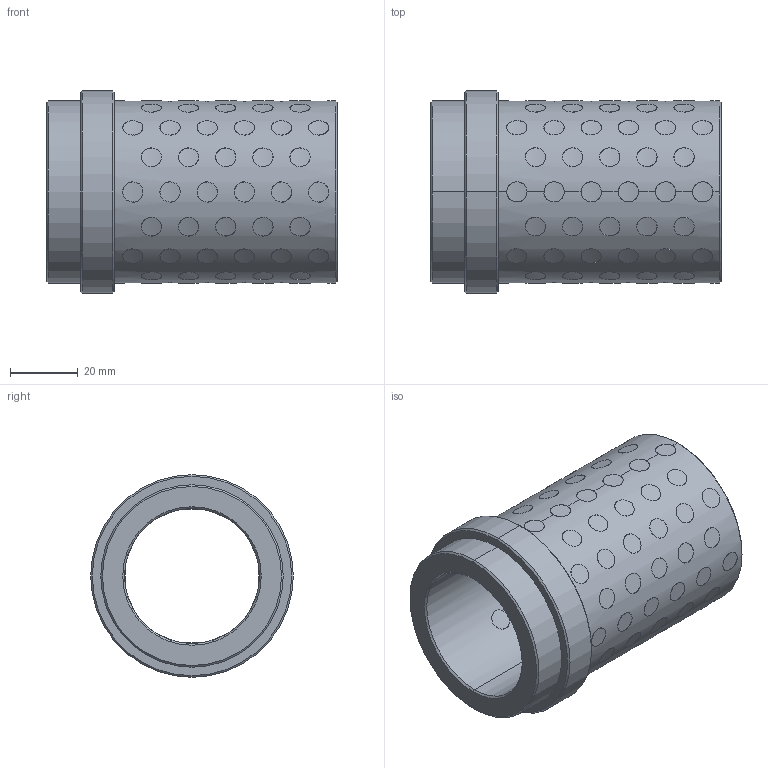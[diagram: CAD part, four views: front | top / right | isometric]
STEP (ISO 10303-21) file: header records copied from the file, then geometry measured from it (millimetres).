
FILE_DESCRIPTION((''),'2;1');
FILE_NAME('G31240076','2017-12-31T',('MANU'),(''),'PRO/ENGINEER BY PARAMETRIC TECHNOLOGY CORPORATION, 2012130','PRO/ENGINEER BY PARAMETRIC TECHNOLOGY CORPORATION, 2012130','');
FILE_SCHEMA(('CONFIG_CONTROL_DESIGN'));
Length unit declared in the file: millimetre
Products named in the file (1): G31240076
Bounding box: 86 x 60 x 60 mm (x, y, z)
Volume: 93849.3 mm3; surface area: 51582.1 mm2
Topology: 89 solids, 89 shells, 552 faces, 1176 edges, 780 vertices
Faces by surface type: cylinder 536, cone 12, plane 4
Entity records: 28104 total; most frequent: CARTESIAN_POINT 17346, ORIENTED_EDGE 2352, DIRECTION 1556, EDGE_CURVE 1176, VERTEX_POINT 780, B_SPLINE_CURVE_WITH_KNOTS 752, EDGE_LOOP 708, AXIS2_PLACEMENT_3D 580
